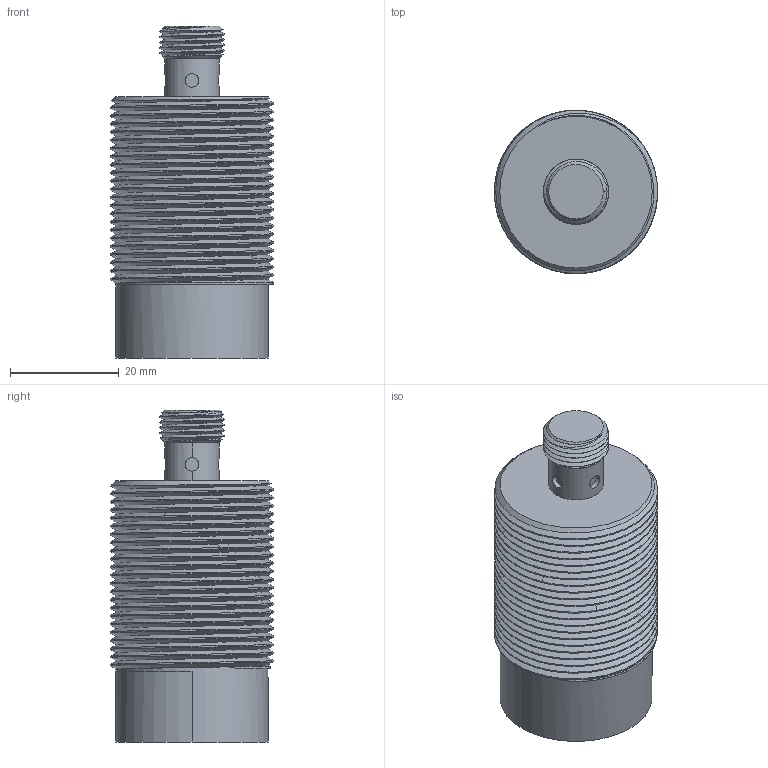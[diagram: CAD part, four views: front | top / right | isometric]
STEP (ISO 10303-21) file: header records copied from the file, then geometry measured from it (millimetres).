
FILE_DESCRIPTION((''),'2;1');
FILE_NAME('RF-HM18_3D','2022-03-15T',('Administrator'),(''),'PRO/ENGINEER BY PARAMETRIC TECHNOLOGY CORPORATION, 2008380','PRO/ENGINEER BY PARAMETRIC TECHNOLOGY CORPORATION, 2008380','');
FILE_SCHEMA(('CONFIG_CONTROL_DESIGN'));
Length unit declared in the file: millimetre
Products named in the file (1): RF-HM18_3D
Bounding box: 30 x 30 x 61 mm (x, y, z)
Volume: 32309.4 mm3; surface area: 8858.8 mm2
Topology: 1 solids, 1 shells, 101 faces, 289 edges, 193 vertices
Faces by surface type: cylinder 65, bspline 19, plane 11, cone 6
Entity records: 10839 total; most frequent: CARTESIAN_POINT 8513, ORIENTED_EDGE 578, DIRECTION 317, EDGE_CURVE 289, VERTEX_POINT 193, B_SPLINE_CURVE_WITH_KNOTS 166, AXIS2_PLACEMENT_3D 112, EDGE_LOOP 104
